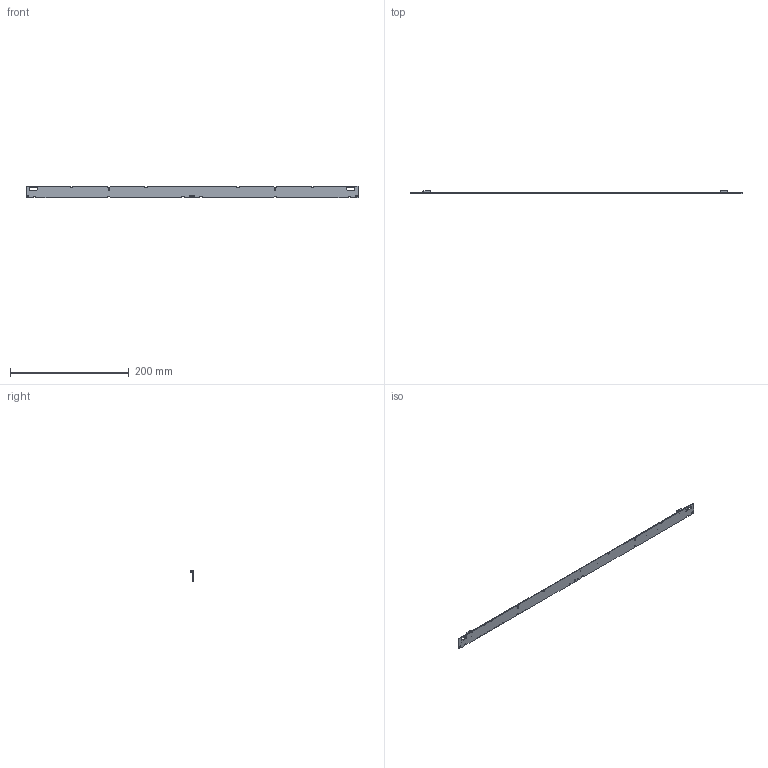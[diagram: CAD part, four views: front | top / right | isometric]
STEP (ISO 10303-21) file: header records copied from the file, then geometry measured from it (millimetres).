
FILE_DESCRIPTION((''),'2;1');
FILE_NAME('ASM0001-WU-M-626_DIODE_LOGO_ASM','2019-07-11T12:17:40',('msavic'),(''),'CREO PARAMETRIC BY PTC INC, 2016510','CREO PARAMETRIC BY PTC INC, 2016510','');
FILE_SCHEMA(('AUTOMOTIVE_DESIGN { 1 0 10303 214 1 1 1 1 }'));
Products named in the file (15): BAZA__WU-M-626; STW8A12D127; PAD_3; PAD_1; PAD_2; CE-ZEICHEN-6MM; CE-ZEICHEN-6MM001; VSO-LOGO-5MM; VSO-LOGO-5MM001; BUILT-IN_LED_MODULE-5MM004; BUILT-IN_LED_MODULE-5MM003; BUILT-IN_LED_MODULE-5MM002; BUILT-IN_LED_MODULE-5MM; 2060-451_1_2_3; ASM0001-WU-M-626_DIODE_LOGO_ASM
Assembly tree (39 placements, depth 2):
  ASM0001-WU-M-626_DIODE_LOGO_ASM
    BAZA__WU-M-626
    STW8A12D127  x24
    PAD_3
    PAD_1
    PAD_2
    CE-ZEICHEN-6MM
    CE-ZEICHEN-6MM001
    VSO-LOGO-5MM
    VSO-LOGO-5MM001
    BUILT-IN_LED_MODULE-5MM004
    BUILT-IN_LED_MODULE-5MM003
    BUILT-IN_LED_MODULE-5MM002
    BUILT-IN_LED_MODULE-5MM  x2
    2060-451_1_2_3  x2
Bounding box: 559 x 5.95 x 20 mm (x, y, z)
Volume: 17886.2 mm3; surface area: 25324.1 mm2
Topology: 39 solids, 39 shells, 3143 faces, 9346 edges, 6473 vertices
Faces by surface type: plane 2011, extrusion 898, cylinder 232, sphere 2
Entity records: 73645 total; most frequent: CARTESIAN_POINT 19242, ORIENTED_EDGE 11166, DIRECTION 7196, EDGE_CURVE 5583, VECTOR 4335, VERTEX_POINT 3781, LINE 3437, B_SPLINE_CURVE_WITH_KNOTS 2817
